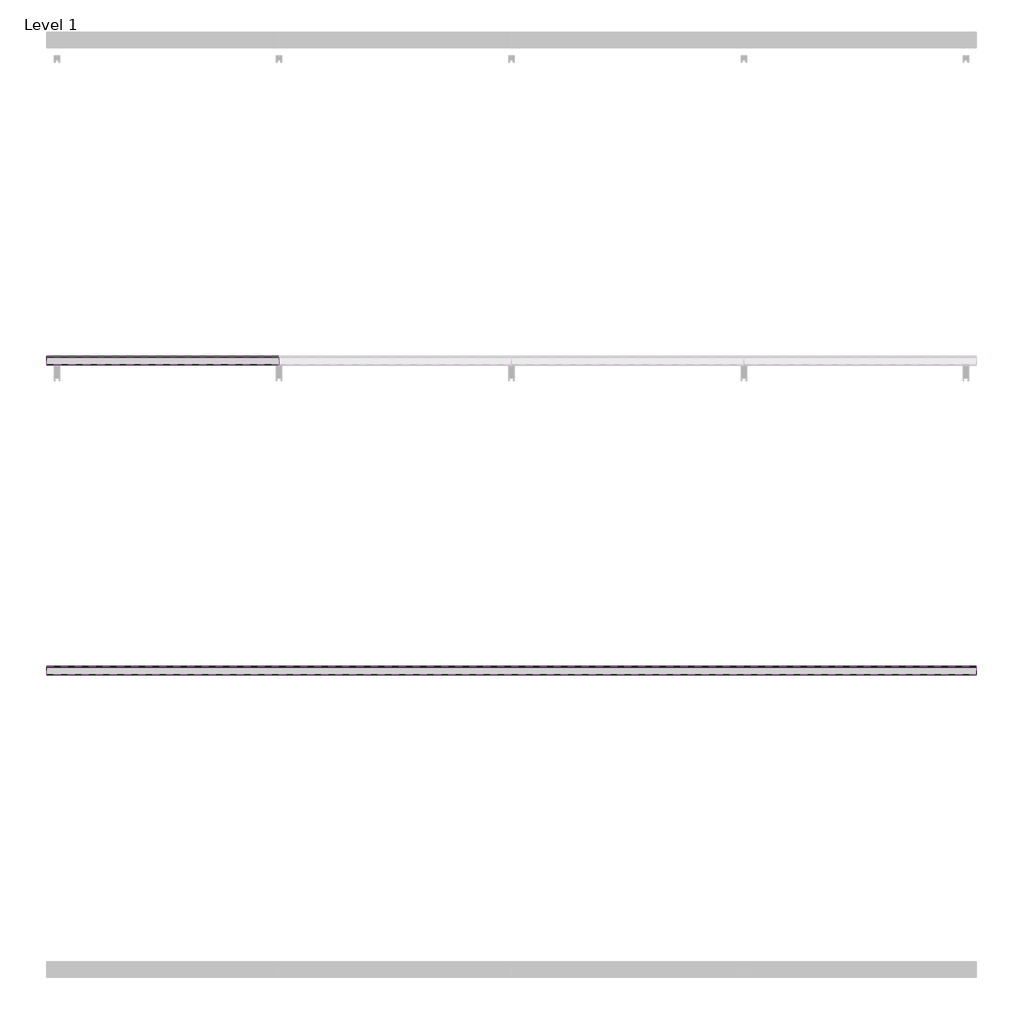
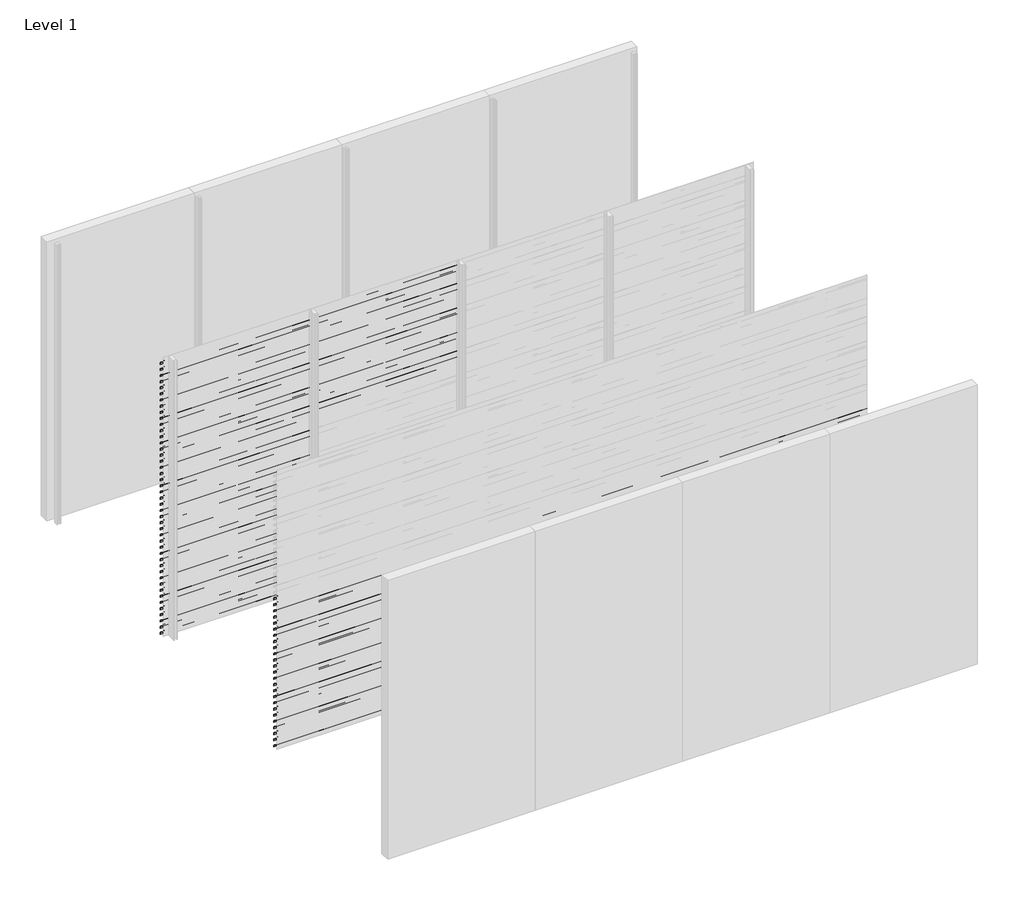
# One storey, part 16 of 25: 87 proxies.
"""IFC4 building model written with IfcOpenShell, lengths in millimetres."""

from ifc_helpers import new_model, si_unit, frame, origin, place, context, project, spatial, polyline, outline, extrude, element, save

model = new_model("IFC4")

# Units and contexts
model_context = context("Model", 3, world=origin())
ifc_project = project(units=[si_unit("LENGTHUNIT", "METRE", prefix="MILLI")], contexts=[model_context])

# Site, building, storey
site = spatial("IfcSite", under=ifc_project)
building = spatial("IfcBuilding", under=site)
storey = spatial("IfcBuildingStorey", under=building, Name="Level 1", Elevation=0.0)

# Proxies
placement = place(None, origin())
element("IfcBuildingElementProxy", 1, Name="Wall Sweeps", at=placement, inside=storey, context=model_context, shape_type="SweptSolid", body=[
    extrude(outline(polyline([(-17943.0, 2913.5), (-17943.0, 2893.5), (-17944.25, 2894.2216933), (-17944.25, 2912.7872415), (-17998.0, 2950.3158044), (-17998.0, 2970.0), (-17996.75, 2970.0), (-17996.75, 2951.0285629), (-17943.0, 2913.5)])), frame((0.0, 0.0, 0.0), z_axis=(1.0, 0.0, 0.0), x_axis=(0.0, 1.0, 0.0)), (0.0, 0.0, 1.0), 1500.0),
])
element("IfcBuildingElementProxy", 2, Name="Wall Sweeps", at=placement, inside=storey, context=model_context, shape_type="SweptSolid", body=[
    extrude(outline(polyline([(-17943.0, 2847.5), (-17943.0, 2827.5), (-17944.25, 2828.2216933), (-17944.25, 2846.7872415), (-17998.0, 2884.3158044), (-17998.0, 2904.0), (-17996.75, 2904.0), (-17996.75, 2885.0285629), (-17943.0, 2847.5)])), frame((0.0, 0.0, 0.0), z_axis=(1.0, 0.0, 0.0), x_axis=(0.0, 1.0, 0.0)), (0.0, 0.0, 1.0), 1500.0),
])
element("IfcBuildingElementProxy", 3, Name="Wall Sweeps", at=placement, inside=storey, context=model_context, shape_type="SweptSolid", body=[
    extrude(outline(polyline([(-17943.0, 2781.5), (-17943.0, 2761.5), (-17944.25, 2762.2216933), (-17944.25, 2780.7872415), (-17998.0, 2818.3158044), (-17998.0, 2838.0), (-17996.75, 2838.0), (-17996.75, 2819.0285629), (-17943.0, 2781.5)])), frame((0.0, 0.0, 0.0), z_axis=(1.0, 0.0, 0.0), x_axis=(0.0, 1.0, 0.0)), (0.0, 0.0, 1.0), 1500.0),
])
element("IfcBuildingElementProxy", 4, Name="Wall Sweeps", at=placement, inside=storey, context=model_context, shape_type="SweptSolid", body=[
    extrude(outline(polyline([(-17943.0, 2715.5), (-17943.0, 2695.5), (-17944.25, 2696.2216933), (-17944.25, 2714.7872415), (-17998.0, 2752.3158044), (-17998.0, 2772.0), (-17996.75, 2772.0), (-17996.75, 2753.0285629), (-17943.0, 2715.5)])), frame((0.0, 0.0, 0.0), z_axis=(1.0, 0.0, 0.0), x_axis=(0.0, 1.0, 0.0)), (0.0, 0.0, 1.0), 1500.0),
])
element("IfcBuildingElementProxy", 5, Name="Wall Sweeps", at=placement, inside=storey, context=model_context, shape_type="SweptSolid", body=[
    extrude(outline(polyline([(-17943.0, 2649.5), (-17943.0, 2629.5), (-17944.25, 2630.2216933), (-17944.25, 2648.7872415), (-17998.0, 2686.3158044), (-17998.0, 2706.0), (-17996.75, 2706.0), (-17996.75, 2687.0285629), (-17943.0, 2649.5)])), frame((0.0, 0.0, 0.0), z_axis=(1.0, 0.0, 0.0), x_axis=(0.0, 1.0, 0.0)), (0.0, 0.0, 1.0), 1500.0),
])
element("IfcBuildingElementProxy", 6, Name="Wall Sweeps", at=placement, inside=storey, context=model_context, shape_type="SweptSolid", body=[
    extrude(outline(polyline([(-17943.0, 2583.5), (-17943.0, 2563.5), (-17944.25, 2564.2216933), (-17944.25, 2582.7872415), (-17998.0, 2620.3158044), (-17998.0, 2640.0), (-17996.75, 2640.0), (-17996.75, 2621.0285629), (-17943.0, 2583.5)])), frame((0.0, 0.0, 0.0), z_axis=(1.0, 0.0, 0.0), x_axis=(0.0, 1.0, 0.0)), (0.0, 0.0, 1.0), 1500.0),
])
element("IfcBuildingElementProxy", 7, Name="Wall Sweeps", at=placement, inside=storey, context=model_context, shape_type="SweptSolid", body=[
    extrude(outline(polyline([(-17943.0, 2517.5), (-17943.0, 2497.5), (-17944.25, 2498.2216933), (-17944.25, 2516.7872415), (-17998.0, 2554.3158044), (-17998.0, 2574.0), (-17996.75, 2574.0), (-17996.75, 2555.0285629), (-17943.0, 2517.5)])), frame((0.0, 0.0, 0.0), z_axis=(1.0, 0.0, 0.0), x_axis=(0.0, 1.0, 0.0)), (0.0, 0.0, 1.0), 1500.0),
])
element("IfcBuildingElementProxy", 8, Name="Wall Sweeps", at=placement, inside=storey, context=model_context, shape_type="SweptSolid", body=[
    extrude(outline(polyline([(-17943.0, 2451.5), (-17943.0, 2431.5), (-17944.25, 2432.2216933), (-17944.25, 2450.7872415), (-17998.0, 2488.3158044), (-17998.0, 2508.0), (-17996.75, 2508.0), (-17996.75, 2489.0285629), (-17943.0, 2451.5)])), frame((0.0, 0.0, 0.0), z_axis=(1.0, 0.0, 0.0), x_axis=(0.0, 1.0, 0.0)), (0.0, 0.0, 1.0), 1500.0),
])
element("IfcBuildingElementProxy", 9, Name="Wall Sweeps", at=placement, inside=storey, context=model_context, shape_type="SweptSolid", body=[
    extrude(outline(polyline([(-17943.0, 2385.5), (-17943.0, 2365.5), (-17944.25, 2366.2216933), (-17944.25, 2384.7872415), (-17998.0, 2422.3158044), (-17998.0, 2442.0), (-17996.75, 2442.0), (-17996.75, 2423.0285629), (-17943.0, 2385.5)])), frame((0.0, 0.0, 0.0), z_axis=(1.0, 0.0, 0.0), x_axis=(0.0, 1.0, 0.0)), (0.0, 0.0, 1.0), 1500.0),
])
element("IfcBuildingElementProxy", 10, Name="Wall Sweeps", at=placement, inside=storey, context=model_context, shape_type="SweptSolid", body=[
    extrude(outline(polyline([(-17943.0, 2319.5), (-17943.0, 2299.5), (-17944.25, 2300.2216933), (-17944.25, 2318.7872415), (-17998.0, 2356.3158044), (-17998.0, 2376.0), (-17996.75, 2376.0), (-17996.75, 2357.0285629), (-17943.0, 2319.5)])), frame((0.0, 0.0, 0.0), z_axis=(1.0, 0.0, 0.0), x_axis=(0.0, 1.0, 0.0)), (0.0, 0.0, 1.0), 1500.0),
])
element("IfcBuildingElementProxy", 11, Name="Wall Sweeps", at=placement, inside=storey, context=model_context, shape_type="SweptSolid", body=[
    extrude(outline(polyline([(-17943.0, 2253.5), (-17943.0, 2233.5), (-17944.25, 2234.2216933), (-17944.25, 2252.7872415), (-17998.0, 2290.3158044), (-17998.0, 2310.0), (-17996.75, 2310.0), (-17996.75, 2291.0285629), (-17943.0, 2253.5)])), frame((0.0, 0.0, 0.0), z_axis=(1.0, 0.0, 0.0), x_axis=(0.0, 1.0, 0.0)), (0.0, 0.0, 1.0), 1500.0),
])
element("IfcBuildingElementProxy", 12, Name="Wall Sweeps", at=placement, inside=storey, context=model_context, shape_type="SweptSolid", body=[
    extrude(outline(polyline([(-17943.0, 2187.5), (-17943.0, 2167.5), (-17944.25, 2168.2216933), (-17944.25, 2186.7872415), (-17998.0, 2224.3158044), (-17998.0, 2244.0), (-17996.75, 2244.0), (-17996.75, 2225.0285629), (-17943.0, 2187.5)])), frame((0.0, 0.0, 0.0), z_axis=(1.0, 0.0, 0.0), x_axis=(0.0, 1.0, 0.0)), (0.0, 0.0, 1.0), 1500.0),
])
element("IfcBuildingElementProxy", 13, Name="Wall Sweeps", at=placement, inside=storey, context=model_context, shape_type="SweptSolid", body=[
    extrude(outline(polyline([(-17943.0, 2121.5), (-17943.0, 2101.5), (-17944.25, 2102.2216933), (-17944.25, 2120.7872415), (-17998.0, 2158.3158044), (-17998.0, 2178.0), (-17996.75, 2178.0), (-17996.75, 2159.0285629), (-17943.0, 2121.5)])), frame((0.0, 0.0, 0.0), z_axis=(1.0, 0.0, 0.0), x_axis=(0.0, 1.0, 0.0)), (0.0, 0.0, 1.0), 1500.0),
])
element("IfcBuildingElementProxy", 14, Name="Wall Sweeps", at=placement, inside=storey, context=model_context, shape_type="SweptSolid", body=[
    extrude(outline(polyline([(-17943.0, 2055.5), (-17943.0, 2035.5), (-17944.25, 2036.2216933), (-17944.25, 2054.7872415), (-17998.0, 2092.3158044), (-17998.0, 2112.0), (-17996.75, 2112.0), (-17996.75, 2093.0285629), (-17943.0, 2055.5)])), frame((0.0, 0.0, 0.0), z_axis=(1.0, 0.0, 0.0), x_axis=(0.0, 1.0, 0.0)), (0.0, 0.0, 1.0), 1500.0),
])
element("IfcBuildingElementProxy", 15, Name="Wall Sweeps", at=placement, inside=storey, context=model_context, shape_type="SweptSolid", body=[
    extrude(outline(polyline([(-17943.0, 1989.5), (-17943.0, 1969.5), (-17944.25, 1970.2216933), (-17944.25, 1988.7872415), (-17998.0, 2026.3158044), (-17998.0, 2046.0), (-17996.75, 2046.0), (-17996.75, 2027.0285629), (-17943.0, 1989.5)])), frame((0.0, 0.0, 0.0), z_axis=(1.0, 0.0, 0.0), x_axis=(0.0, 1.0, 0.0)), (0.0, 0.0, 1.0), 1500.0),
])
element("IfcBuildingElementProxy", 16, Name="Wall Sweeps", at=placement, inside=storey, context=model_context, shape_type="SweptSolid", body=[
    extrude(outline(polyline([(-17943.0, 1923.5), (-17943.0, 1903.5), (-17944.25, 1904.2216933), (-17944.25, 1922.7872415), (-17998.0, 1960.3158044), (-17998.0, 1980.0), (-17996.75, 1980.0), (-17996.75, 1961.0285629), (-17943.0, 1923.5)])), frame((0.0, 0.0, 0.0), z_axis=(1.0, 0.0, 0.0), x_axis=(0.0, 1.0, 0.0)), (0.0, 0.0, 1.0), 1500.0),
])
element("IfcBuildingElementProxy", 17, Name="Wall Sweeps", at=placement, inside=storey, context=model_context, shape_type="SweptSolid", body=[
    extrude(outline(polyline([(-17943.0, 1857.5), (-17943.0, 1837.5), (-17944.25, 1838.2216933), (-17944.25, 1856.7872415), (-17998.0, 1894.3158044), (-17998.0, 1914.0), (-17996.75, 1914.0), (-17996.75, 1895.0285629), (-17943.0, 1857.5)])), frame((0.0, 0.0, 0.0), z_axis=(1.0, 0.0, 0.0), x_axis=(0.0, 1.0, 0.0)), (0.0, 0.0, 1.0), 1500.0),
])
element("IfcBuildingElementProxy", 18, Name="Wall Sweeps", at=placement, inside=storey, context=model_context, shape_type="SweptSolid", body=[
    extrude(outline(polyline([(-17943.0, 1791.5), (-17943.0, 1771.5), (-17944.25, 1772.2216933), (-17944.25, 1790.7872415), (-17998.0, 1828.3158044), (-17998.0, 1848.0), (-17996.75, 1848.0), (-17996.75, 1829.0285629), (-17943.0, 1791.5)])), frame((0.0, 0.0, 0.0), z_axis=(1.0, 0.0, 0.0), x_axis=(0.0, 1.0, 0.0)), (0.0, 0.0, 1.0), 1500.0),
])
element("IfcBuildingElementProxy", 19, Name="Wall Sweeps", at=placement, inside=storey, context=model_context, shape_type="SweptSolid", body=[
    extrude(outline(polyline([(-17943.0, 1725.5), (-17943.0, 1705.5), (-17944.25, 1706.2216933), (-17944.25, 1724.7872415), (-17998.0, 1762.3158044), (-17998.0, 1782.0), (-17996.75, 1782.0), (-17996.75, 1763.0285629), (-17943.0, 1725.5)])), frame((0.0, 0.0, 0.0), z_axis=(1.0, 0.0, 0.0), x_axis=(0.0, 1.0, 0.0)), (0.0, 0.0, 1.0), 1500.0),
])
element("IfcBuildingElementProxy", 20, Name="Wall Sweeps", at=placement, inside=storey, context=model_context, shape_type="SweptSolid", body=[
    extrude(outline(polyline([(-17943.0, 1659.5), (-17943.0, 1639.5), (-17944.25, 1640.2216933), (-17944.25, 1658.7872415), (-17998.0, 1696.3158044), (-17998.0, 1716.0), (-17996.75, 1716.0), (-17996.75, 1697.0285629), (-17943.0, 1659.5)])), frame((0.0, 0.0, 0.0), z_axis=(1.0, 0.0, 0.0), x_axis=(0.0, 1.0, 0.0)), (0.0, 0.0, 1.0), 1500.0),
])
element("IfcBuildingElementProxy", 21, Name="Wall Sweeps", at=placement, inside=storey, context=model_context, shape_type="SweptSolid", body=[
    extrude(outline(polyline([(-17943.0, 1593.5), (-17943.0, 1573.5), (-17944.25, 1574.2216933), (-17944.25, 1592.7872415), (-17998.0, 1630.3158044), (-17998.0, 1650.0), (-17996.75, 1650.0), (-17996.75, 1631.0285629), (-17943.0, 1593.5)])), frame((0.0, 0.0, 0.0), z_axis=(1.0, 0.0, 0.0), x_axis=(0.0, 1.0, 0.0)), (0.0, 0.0, 1.0), 1500.0),
])
element("IfcBuildingElementProxy", 22, Name="Wall Sweeps", at=placement, inside=storey, context=model_context, shape_type="SweptSolid", body=[
    extrude(outline(polyline([(-17943.0, 1527.5), (-17943.0, 1507.5), (-17944.25, 1508.2216933), (-17944.25, 1526.7872415), (-17998.0, 1564.3158044), (-17998.0, 1584.0), (-17996.75, 1584.0), (-17996.75, 1565.0285629), (-17943.0, 1527.5)])), frame((0.0, 0.0, 0.0), z_axis=(1.0, 0.0, 0.0), x_axis=(0.0, 1.0, 0.0)), (0.0, 0.0, 1.0), 1500.0),
])
element("IfcBuildingElementProxy", 23, Name="Wall Sweeps", at=placement, inside=storey, context=model_context, shape_type="SweptSolid", body=[
    extrude(outline(polyline([(-17943.0, 1461.5), (-17943.0, 1441.5), (-17944.25, 1442.2216933), (-17944.25, 1460.7872415), (-17998.0, 1498.3158044), (-17998.0, 1518.0), (-17996.75, 1518.0), (-17996.75, 1499.0285629), (-17943.0, 1461.5)])), frame((0.0, 0.0, 0.0), z_axis=(1.0, 0.0, 0.0), x_axis=(0.0, 1.0, 0.0)), (0.0, 0.0, 1.0), 1500.0),
])
element("IfcBuildingElementProxy", 24, Name="Wall Sweeps", at=placement, inside=storey, context=model_context, shape_type="SweptSolid", body=[
    extrude(outline(polyline([(-17943.0, 1395.5), (-17943.0, 1375.5), (-17944.25, 1376.2216933), (-17944.25, 1394.7872415), (-17998.0, 1432.3158044), (-17998.0, 1452.0), (-17996.75, 1452.0), (-17996.75, 1433.0285629), (-17943.0, 1395.5)])), frame((0.0, 0.0, 0.0), z_axis=(1.0, 0.0, 0.0), x_axis=(0.0, 1.0, 0.0)), (0.0, 0.0, 1.0), 1500.0),
])
element("IfcBuildingElementProxy", 25, Name="Wall Sweeps", at=placement, inside=storey, context=model_context, shape_type="SweptSolid", body=[
    extrude(outline(polyline([(-17943.0, 1329.5), (-17943.0, 1309.5), (-17944.25, 1310.2216933), (-17944.25, 1328.7872415), (-17998.0, 1366.3158044), (-17998.0, 1386.0), (-17996.75, 1386.0), (-17996.75, 1367.0285629), (-17943.0, 1329.5)])), frame((0.0, 0.0, 0.0), z_axis=(1.0, 0.0, 0.0), x_axis=(0.0, 1.0, 0.0)), (0.0, 0.0, 1.0), 1500.0),
])
element("IfcBuildingElementProxy", 26, Name="Wall Sweeps", at=placement, inside=storey, context=model_context, shape_type="SweptSolid", body=[
    extrude(outline(polyline([(-17943.0, 1263.5), (-17943.0, 1243.5), (-17944.25, 1244.2216933), (-17944.25, 1262.7872415), (-17998.0, 1300.3158044), (-17998.0, 1320.0), (-17996.75, 1320.0), (-17996.75, 1301.0285629), (-17943.0, 1263.5)])), frame((0.0, 0.0, 0.0), z_axis=(1.0, 0.0, 0.0), x_axis=(0.0, 1.0, 0.0)), (0.0, 0.0, 1.0), 1500.0),
])
element("IfcBuildingElementProxy", 27, Name="Wall Sweeps", at=placement, inside=storey, context=model_context, shape_type="SweptSolid", body=[
    extrude(outline(polyline([(-17943.0, 1197.5), (-17943.0, 1177.5), (-17944.25, 1178.2216933), (-17944.25, 1196.7872415), (-17998.0, 1234.3158044), (-17998.0, 1254.0), (-17996.75, 1254.0), (-17996.75, 1235.0285629), (-17943.0, 1197.5)])), frame((0.0, 0.0, 0.0), z_axis=(1.0, 0.0, 0.0), x_axis=(0.0, 1.0, 0.0)), (0.0, 0.0, 1.0), 1500.0),
])
element("IfcBuildingElementProxy", 28, Name="Wall Sweeps", at=placement, inside=storey, context=model_context, shape_type="SweptSolid", body=[
    extrude(outline(polyline([(-17943.0, 1131.5), (-17943.0, 1111.5), (-17944.25, 1112.2216933), (-17944.25, 1130.7872415), (-17998.0, 1168.3158044), (-17998.0, 1188.0), (-17996.75, 1188.0), (-17996.75, 1169.0285629), (-17943.0, 1131.5)])), frame((0.0, 0.0, 0.0), z_axis=(1.0, 0.0, 0.0), x_axis=(0.0, 1.0, 0.0)), (0.0, 0.0, 1.0), 1500.0),
])
element("IfcBuildingElementProxy", 29, Name="Wall Sweeps", at=placement, inside=storey, context=model_context, shape_type="SweptSolid", body=[
    extrude(outline(polyline([(-17943.0, 1065.5), (-17943.0, 1045.5), (-17944.25, 1046.2216933), (-17944.25, 1064.7872415), (-17998.0, 1102.3158044), (-17998.0, 1122.0), (-17996.75, 1122.0), (-17996.75, 1103.0285629), (-17943.0, 1065.5)])), frame((0.0, 0.0, 0.0), z_axis=(1.0, 0.0, 0.0), x_axis=(0.0, 1.0, 0.0)), (0.0, 0.0, 1.0), 1500.0),
])
element("IfcBuildingElementProxy", 30, Name="Wall Sweeps", at=placement, inside=storey, context=model_context, shape_type="SweptSolid", body=[
    extrude(outline(polyline([(-17943.0, 999.5), (-17943.0, 979.5), (-17944.25, 980.2216933), (-17944.25, 998.7872415), (-17998.0, 1036.3158044), (-17998.0, 1056.0), (-17996.75, 1056.0), (-17996.75, 1037.0285629), (-17943.0, 999.5)])), frame((0.0, 0.0, 0.0), z_axis=(1.0, 0.0, 0.0), x_axis=(0.0, 1.0, 0.0)), (0.0, 0.0, 1.0), 1500.0),
])
element("IfcBuildingElementProxy", 31, Name="Wall Sweeps", at=placement, inside=storey, context=model_context, shape_type="SweptSolid", body=[
    extrude(outline(polyline([(-17943.0, 933.5), (-17943.0, 913.5), (-17944.25, 914.2216933), (-17944.25, 932.7872415), (-17998.0, 970.3158044), (-17998.0, 990.0), (-17996.75, 990.0), (-17996.75, 971.0285629), (-17943.0, 933.5)])), frame((0.0, 0.0, 0.0), z_axis=(1.0, 0.0, 0.0), x_axis=(0.0, 1.0, 0.0)), (0.0, 0.0, 1.0), 1500.0),
])
element("IfcBuildingElementProxy", 32, Name="Wall Sweeps", at=placement, inside=storey, context=model_context, shape_type="SweptSolid", body=[
    extrude(outline(polyline([(-17943.0, 867.5), (-17943.0, 847.5), (-17944.25, 848.2216933), (-17944.25, 866.7872415), (-17998.0, 904.3158044), (-17998.0, 924.0), (-17996.75, 924.0), (-17996.75, 905.0285629), (-17943.0, 867.5)])), frame((0.0, 0.0, 0.0), z_axis=(1.0, 0.0, 0.0), x_axis=(0.0, 1.0, 0.0)), (0.0, 0.0, 1.0), 1500.0),
])
element("IfcBuildingElementProxy", 33, Name="Wall Sweeps", at=placement, inside=storey, context=model_context, shape_type="SweptSolid", body=[
    extrude(outline(polyline([(-17943.0, 801.5), (-17943.0, 781.5), (-17944.25, 782.2216933), (-17944.25, 800.7872415), (-17998.0, 838.3158044), (-17998.0, 858.0), (-17996.75, 858.0), (-17996.75, 839.0285629), (-17943.0, 801.5)])), frame((0.0, 0.0, 0.0), z_axis=(1.0, 0.0, 0.0), x_axis=(0.0, 1.0, 0.0)), (0.0, 0.0, 1.0), 1500.0),
])
element("IfcBuildingElementProxy", 34, Name="Wall Sweeps", at=placement, inside=storey, context=model_context, shape_type="SweptSolid", body=[
    extrude(outline(polyline([(-17943.0, 735.5), (-17943.0, 715.5), (-17944.25, 716.2216933), (-17944.25, 734.7872415), (-17998.0, 772.3158044), (-17998.0, 792.0), (-17996.75, 792.0), (-17996.75, 773.0285629), (-17943.0, 735.5)])), frame((0.0, 0.0, 0.0), z_axis=(1.0, 0.0, 0.0), x_axis=(0.0, 1.0, 0.0)), (0.0, 0.0, 1.0), 1500.0),
])
element("IfcBuildingElementProxy", 35, Name="Wall Sweeps", at=placement, inside=storey, context=model_context, shape_type="SweptSolid", body=[
    extrude(outline(polyline([(-17943.0, 669.5), (-17943.0, 649.5), (-17944.25, 650.2216933), (-17944.25, 668.7872415), (-17998.0, 706.3158044), (-17998.0, 726.0), (-17996.75, 726.0), (-17996.75, 707.0285629), (-17943.0, 669.5)])), frame((0.0, 0.0, 0.0), z_axis=(1.0, 0.0, 0.0), x_axis=(0.0, 1.0, 0.0)), (0.0, 0.0, 1.0), 1500.0),
])
element("IfcBuildingElementProxy", 36, Name="Wall Sweeps", at=placement, inside=storey, context=model_context, shape_type="SweptSolid", body=[
    extrude(outline(polyline([(-17943.0, 603.5), (-17943.0, 583.5), (-17944.25, 584.2216933), (-17944.25, 602.7872415), (-17998.0, 640.3158044), (-17998.0, 660.0), (-17996.75, 660.0), (-17996.75, 641.0285629), (-17943.0, 603.5)])), frame((0.0, 0.0, 0.0), z_axis=(1.0, 0.0, 0.0), x_axis=(0.0, 1.0, 0.0)), (0.0, 0.0, 1.0), 1500.0),
])
element("IfcBuildingElementProxy", 37, Name="Wall Sweeps", at=placement, inside=storey, context=model_context, shape_type="SweptSolid", body=[
    extrude(outline(polyline([(-17943.0, 537.5), (-17943.0, 517.5), (-17944.25, 518.2216933), (-17944.25, 536.7872415), (-17998.0, 574.3158044), (-17998.0, 594.0), (-17996.75, 594.0), (-17996.75, 575.0285629), (-17943.0, 537.5)])), frame((0.0, 0.0, 0.0), z_axis=(1.0, 0.0, 0.0), x_axis=(0.0, 1.0, 0.0)), (0.0, 0.0, 1.0), 1500.0),
])
element("IfcBuildingElementProxy", 38, Name="Wall Sweeps", at=placement, inside=storey, context=model_context, shape_type="SweptSolid", body=[
    extrude(outline(polyline([(-17943.0, 471.5), (-17943.0, 451.5), (-17944.25, 452.2216933), (-17944.25, 470.7872415), (-17998.0, 508.3158044), (-17998.0, 528.0), (-17996.75, 528.0), (-17996.75, 509.0285629), (-17943.0, 471.5)])), frame((0.0, 0.0, 0.0), z_axis=(1.0, 0.0, 0.0), x_axis=(0.0, 1.0, 0.0)), (0.0, 0.0, 1.0), 1500.0),
])
element("IfcBuildingElementProxy", 39, Name="Wall Sweeps", at=placement, inside=storey, context=model_context, shape_type="SweptSolid", body=[
    extrude(outline(polyline([(-17943.0, 405.5), (-17943.0, 385.5), (-17944.25, 386.2216933), (-17944.25, 404.7872415), (-17998.0, 442.3158044), (-17998.0, 462.0), (-17996.75, 462.0), (-17996.75, 443.0285629), (-17943.0, 405.5)])), frame((0.0, 0.0, 0.0), z_axis=(1.0, 0.0, 0.0), x_axis=(0.0, 1.0, 0.0)), (0.0, 0.0, 1.0), 1500.0),
])
element("IfcBuildingElementProxy", 40, Name="Wall Sweeps", at=placement, inside=storey, context=model_context, shape_type="SweptSolid", body=[
    extrude(outline(polyline([(-17943.0, 339.5), (-17943.0, 319.5), (-17944.25, 320.2216933), (-17944.25, 338.7872415), (-17998.0, 376.3158044), (-17998.0, 396.0), (-17996.75, 396.0), (-17996.75, 377.0285629), (-17943.0, 339.5)])), frame((0.0, 0.0, 0.0), z_axis=(1.0, 0.0, 0.0), x_axis=(0.0, 1.0, 0.0)), (0.0, 0.0, 1.0), 1500.0),
])
element("IfcBuildingElementProxy", 41, Name="Wall Sweeps", at=placement, inside=storey, context=model_context, shape_type="SweptSolid", body=[
    extrude(outline(polyline([(-17943.0, 273.5), (-17943.0, 253.5), (-17944.25, 254.2216933), (-17944.25, 272.7872415), (-17998.0, 310.3158044), (-17998.0, 330.0), (-17996.75, 330.0), (-17996.75, 311.0285629), (-17943.0, 273.5)])), frame((0.0, 0.0, 0.0), z_axis=(1.0, 0.0, 0.0), x_axis=(0.0, 1.0, 0.0)), (0.0, 0.0, 1.0), 1500.0),
])
element("IfcBuildingElementProxy", 42, Name="Wall Sweeps", at=placement, inside=storey, context=model_context, shape_type="SweptSolid", body=[
    extrude(outline(polyline([(-17943.0, 207.5), (-17943.0, 187.5), (-17944.25, 188.2216933), (-17944.25, 206.7872415), (-17998.0, 244.3158044), (-17998.0, 264.0), (-17996.75, 264.0), (-17996.75, 245.0285629), (-17943.0, 207.5)])), frame((0.0, 0.0, 0.0), z_axis=(1.0, 0.0, 0.0), x_axis=(0.0, 1.0, 0.0)), (0.0, 0.0, 1.0), 1500.0),
])
element("IfcBuildingElementProxy", 43, Name="Wall Sweeps", at=placement, inside=storey, context=model_context, shape_type="SweptSolid", body=[
    extrude(outline(polyline([(-17943.0, 141.5), (-17943.0, 121.5), (-17944.25, 122.2216933), (-17944.25, 140.7872415), (-17998.0, 178.3158044), (-17998.0, 198.0), (-17996.75, 198.0), (-17996.75, 179.0285629), (-17943.0, 141.5)])), frame((0.0, 0.0, 0.0), z_axis=(1.0, 0.0, 0.0), x_axis=(0.0, 1.0, 0.0)), (0.0, 0.0, 1.0), 1500.0),
])
element("IfcBuildingElementProxy", 44, Name="Wall Sweeps", at=placement, inside=storey, context=model_context, shape_type="SweptSolid", body=[
    extrude(outline(polyline([(-17943.0, 75.5), (-17943.0, 55.5), (-17944.25, 56.2216933), (-17944.25, 74.7872415), (-17998.0, 112.3158044), (-17998.0, 132.0), (-17996.75, 132.0), (-17996.75, 113.0285629), (-17943.0, 75.5)])), frame((0.0, 0.0, 0.0), z_axis=(1.0, 0.0, 0.0), x_axis=(0.0, 1.0, 0.0)), (0.0, 0.0, 1.0), 1500.0),
])
element("IfcBuildingElementProxy", 45, Name="Wall Sweeps", at=placement, inside=storey, context=model_context, shape_type="SweptSolid", body=[
    extrude(outline(polyline([(-17943.0, 9.5), (-17943.0, -10.5), (-17944.25, -9.7783067), (-17944.25, 8.7872415), (-17998.0, 46.3158044), (-17998.0, 66.0), (-17996.75, 66.0), (-17996.75, 47.0285629), (-17943.0, 9.5)])), frame((0.0, 0.0, 0.0), z_axis=(1.0, 0.0, 0.0), x_axis=(0.0, 1.0, 0.0)), (0.0, 0.0, 1.0), 1500.0),
])
element("IfcBuildingElementProxy", 46, Name="Wall Sweeps", at=placement, inside=storey, context=model_context, shape_type="SweptSolid", body=[
    extrude(outline(polyline([(-17943.0, 2913.5), (-17943.0, 2893.5), (-17944.25, 2894.2216933), (-17944.25, 2912.7872415), (-17998.0, 2950.3158044), (-17998.0, 2970.0), (-17996.75, 2970.0), (-17996.75, 2951.0285629), (-17943.0, 2913.5)])), frame((1500.0, 0.0, 0.0), z_axis=(1.0, 0.0, 0.0), x_axis=(0.0, 1.0, 0.0)), (0.0, 0.0, 1.0), 1500.0),
])
element("IfcBuildingElementProxy", 47, Name="Wall Sweeps", at=placement, inside=storey, context=model_context, shape_type="SweptSolid", body=[
    extrude(outline(polyline([(-17943.0, 2847.5), (-17943.0, 2827.5), (-17944.25, 2828.2216933), (-17944.25, 2846.7872415), (-17998.0, 2884.3158044), (-17998.0, 2904.0), (-17996.75, 2904.0), (-17996.75, 2885.0285629), (-17943.0, 2847.5)])), frame((1500.0, 0.0, 0.0), z_axis=(1.0, 0.0, 0.0), x_axis=(0.0, 1.0, 0.0)), (0.0, 0.0, 1.0), 1500.0),
])
element("IfcBuildingElementProxy", 48, Name="Wall Sweeps", at=placement, inside=storey, context=model_context, shape_type="SweptSolid", body=[
    extrude(outline(polyline([(-17943.0, 2781.5), (-17943.0, 2761.5), (-17944.25, 2762.2216933), (-17944.25, 2780.7872415), (-17998.0, 2818.3158044), (-17998.0, 2838.0), (-17996.75, 2838.0), (-17996.75, 2819.0285629), (-17943.0, 2781.5)])), frame((1500.0, 0.0, 0.0), z_axis=(1.0, 0.0, 0.0), x_axis=(0.0, 1.0, 0.0)), (0.0, 0.0, 1.0), 1500.0),
])
element("IfcBuildingElementProxy", 49, Name="Wall Sweeps", at=placement, inside=storey, context=model_context, shape_type="SweptSolid", body=[
    extrude(outline(polyline([(-17943.0, 2715.5), (-17943.0, 2695.5), (-17944.25, 2696.2216933), (-17944.25, 2714.7872415), (-17998.0, 2752.3158044), (-17998.0, 2772.0), (-17996.75, 2772.0), (-17996.75, 2753.0285629), (-17943.0, 2715.5)])), frame((1500.0, 0.0, 0.0), z_axis=(1.0, 0.0, 0.0), x_axis=(0.0, 1.0, 0.0)), (0.0, 0.0, 1.0), 1500.0),
])
element("IfcBuildingElementProxy", 50, Name="Wall Sweeps", at=placement, inside=storey, context=model_context, shape_type="SweptSolid", body=[
    extrude(outline(polyline([(-17943.0, 2649.5), (-17943.0, 2629.5), (-17944.25, 2630.2216933), (-17944.25, 2648.7872415), (-17998.0, 2686.3158044), (-17998.0, 2706.0), (-17996.75, 2706.0), (-17996.75, 2687.0285629), (-17943.0, 2649.5)])), frame((1500.0, 0.0, 0.0), z_axis=(1.0, 0.0, 0.0), x_axis=(0.0, 1.0, 0.0)), (0.0, 0.0, 1.0), 1500.0),
])
element("IfcBuildingElementProxy", 51, Name="Wall Sweeps", at=placement, inside=storey, context=model_context, shape_type="SweptSolid", body=[
    extrude(outline(polyline([(-17943.0, 2583.5), (-17943.0, 2563.5), (-17944.25, 2564.2216933), (-17944.25, 2582.7872415), (-17998.0, 2620.3158044), (-17998.0, 2640.0), (-17996.75, 2640.0), (-17996.75, 2621.0285629), (-17943.0, 2583.5)])), frame((1500.0, 0.0, 0.0), z_axis=(1.0, 0.0, 0.0), x_axis=(0.0, 1.0, 0.0)), (0.0, 0.0, 1.0), 1500.0),
])
element("IfcBuildingElementProxy", 52, Name="Wall Sweeps", at=placement, inside=storey, context=model_context, shape_type="SweptSolid", body=[
    extrude(outline(polyline([(-17943.0, 2517.5), (-17943.0, 2497.5), (-17944.25, 2498.2216933), (-17944.25, 2516.7872415), (-17998.0, 2554.3158044), (-17998.0, 2574.0), (-17996.75, 2574.0), (-17996.75, 2555.0285629), (-17943.0, 2517.5)])), frame((1500.0, 0.0, 0.0), z_axis=(1.0, 0.0, 0.0), x_axis=(0.0, 1.0, 0.0)), (0.0, 0.0, 1.0), 1500.0),
])
element("IfcBuildingElementProxy", 53, Name="Wall Sweeps", at=placement, inside=storey, context=model_context, shape_type="SweptSolid", body=[
    extrude(outline(polyline([(-17943.0, 2451.5), (-17943.0, 2431.5), (-17944.25, 2432.2216933), (-17944.25, 2450.7872415), (-17998.0, 2488.3158044), (-17998.0, 2508.0), (-17996.75, 2508.0), (-17996.75, 2489.0285629), (-17943.0, 2451.5)])), frame((1500.0, 0.0, 0.0), z_axis=(1.0, 0.0, 0.0), x_axis=(0.0, 1.0, 0.0)), (0.0, 0.0, 1.0), 1500.0),
])
element("IfcBuildingElementProxy", 54, Name="Wall Sweeps", at=placement, inside=storey, context=model_context, shape_type="SweptSolid", body=[
    extrude(outline(polyline([(-17943.0, 2385.5), (-17943.0, 2365.5), (-17944.25, 2366.2216933), (-17944.25, 2384.7872415), (-17998.0, 2422.3158044), (-17998.0, 2442.0), (-17996.75, 2442.0), (-17996.75, 2423.0285629), (-17943.0, 2385.5)])), frame((1500.0, 0.0, 0.0), z_axis=(1.0, 0.0, 0.0), x_axis=(0.0, 1.0, 0.0)), (0.0, 0.0, 1.0), 1500.0),
])
element("IfcBuildingElementProxy", 55, Name="Wall Sweeps", at=placement, inside=storey, context=model_context, shape_type="SweptSolid", body=[
    extrude(outline(polyline([(-17943.0, 2319.5), (-17943.0, 2299.5), (-17944.25, 2300.2216933), (-17944.25, 2318.7872415), (-17998.0, 2356.3158044), (-17998.0, 2376.0), (-17996.75, 2376.0), (-17996.75, 2357.0285629), (-17943.0, 2319.5)])), frame((1500.0, 0.0, 0.0), z_axis=(1.0, 0.0, 0.0), x_axis=(0.0, 1.0, 0.0)), (0.0, 0.0, 1.0), 1500.0),
])
element("IfcBuildingElementProxy", 56, Name="Wall Sweeps", at=placement, inside=storey, context=model_context, shape_type="SweptSolid", body=[
    extrude(outline(polyline([(-17943.0, 2253.5), (-17943.0, 2233.5), (-17944.25, 2234.2216933), (-17944.25, 2252.7872415), (-17998.0, 2290.3158044), (-17998.0, 2310.0), (-17996.75, 2310.0), (-17996.75, 2291.0285629), (-17943.0, 2253.5)])), frame((1500.0, 0.0, 0.0), z_axis=(1.0, 0.0, 0.0), x_axis=(0.0, 1.0, 0.0)), (0.0, 0.0, 1.0), 1500.0),
])
element("IfcBuildingElementProxy", 57, Name="Wall Sweeps", at=placement, inside=storey, context=model_context, shape_type="SweptSolid", body=[
    extrude(outline(polyline([(-17943.0, 2187.5), (-17943.0, 2167.5), (-17944.25, 2168.2216933), (-17944.25, 2186.7872415), (-17998.0, 2224.3158044), (-17998.0, 2244.0), (-17996.75, 2244.0), (-17996.75, 2225.0285629), (-17943.0, 2187.5)])), frame((1500.0, 0.0, 0.0), z_axis=(1.0, 0.0, 0.0), x_axis=(0.0, 1.0, 0.0)), (0.0, 0.0, 1.0), 1500.0),
])
element("IfcBuildingElementProxy", 58, Name="Wall Sweeps", at=placement, inside=storey, context=model_context, shape_type="SweptSolid", body=[
    extrude(outline(polyline([(-17943.0, 2121.5), (-17943.0, 2101.5), (-17944.25, 2102.2216933), (-17944.25, 2120.7872415), (-17998.0, 2158.3158044), (-17998.0, 2178.0), (-17996.75, 2178.0), (-17996.75, 2159.0285629), (-17943.0, 2121.5)])), frame((1500.0, 0.0, 0.0), z_axis=(1.0, 0.0, 0.0), x_axis=(0.0, 1.0, 0.0)), (0.0, 0.0, 1.0), 1500.0),
])
element("IfcBuildingElementProxy", 59, Name="Wall Sweeps", at=placement, inside=storey, context=model_context, shape_type="SweptSolid", body=[
    extrude(outline(polyline([(-17943.0, 2055.5), (-17943.0, 2035.5), (-17944.25, 2036.2216933), (-17944.25, 2054.7872415), (-17998.0, 2092.3158044), (-17998.0, 2112.0), (-17996.75, 2112.0), (-17996.75, 2093.0285629), (-17943.0, 2055.5)])), frame((1500.0, 0.0, 0.0), z_axis=(1.0, 0.0, 0.0), x_axis=(0.0, 1.0, 0.0)), (0.0, 0.0, 1.0), 1500.0),
])
element("IfcBuildingElementProxy", 60, Name="Wall Sweeps", at=placement, inside=storey, context=model_context, shape_type="SweptSolid", body=[
    extrude(outline(polyline([(-17943.0, 1989.5), (-17943.0, 1969.5), (-17944.25, 1970.2216933), (-17944.25, 1988.7872415), (-17998.0, 2026.3158044), (-17998.0, 2046.0), (-17996.75, 2046.0), (-17996.75, 2027.0285629), (-17943.0, 1989.5)])), frame((1500.0, 0.0, 0.0), z_axis=(1.0, 0.0, 0.0), x_axis=(0.0, 1.0, 0.0)), (0.0, 0.0, 1.0), 1500.0),
])
element("IfcBuildingElementProxy", 61, Name="Wall Sweeps", at=placement, inside=storey, context=model_context, shape_type="SweptSolid", body=[
    extrude(outline(polyline([(-17943.0, 1923.5), (-17943.0, 1903.5), (-17944.25, 1904.2216933), (-17944.25, 1922.7872415), (-17998.0, 1960.3158044), (-17998.0, 1980.0), (-17996.75, 1980.0), (-17996.75, 1961.0285629), (-17943.0, 1923.5)])), frame((1500.0, 0.0, 0.0), z_axis=(1.0, 0.0, 0.0), x_axis=(0.0, 1.0, 0.0)), (0.0, 0.0, 1.0), 1500.0),
])
element("IfcBuildingElementProxy", 62, Name="Wall Sweeps", at=placement, inside=storey, context=model_context, shape_type="SweptSolid", body=[
    extrude(outline(polyline([(-17943.0, 1857.5), (-17943.0, 1837.5), (-17944.25, 1838.2216933), (-17944.25, 1856.7872415), (-17998.0, 1894.3158044), (-17998.0, 1914.0), (-17996.75, 1914.0), (-17996.75, 1895.0285629), (-17943.0, 1857.5)])), frame((1500.0, 0.0, 0.0), z_axis=(1.0, 0.0, 0.0), x_axis=(0.0, 1.0, 0.0)), (0.0, 0.0, 1.0), 1500.0),
])
element("IfcBuildingElementProxy", 63, Name="Wall Sweeps", at=placement, inside=storey, context=model_context, shape_type="SweptSolid", body=[
    extrude(outline(polyline([(-19943.0, 1593.5), (-19943.0, 1573.5), (-19944.25, 1574.2216933), (-19944.25, 1592.7872415), (-19998.0, 1630.3158044), (-19998.0, 1650.0), (-19996.75, 1650.0), (-19996.75, 1631.0285629), (-19943.0, 1593.5)])), frame((0.0, 0.0, 0.0), z_axis=(1.0, 0.0, 0.0), x_axis=(0.0, 1.0, 0.0)), (0.0, 0.0, 1.0), 6000.0),
])
element("IfcBuildingElementProxy", 64, Name="Wall Sweeps", at=placement, inside=storey, context=model_context, shape_type="SweptSolid", body=[
    extrude(outline(polyline([(-19943.0, 1527.5), (-19943.0, 1507.5), (-19944.25, 1508.2216933), (-19944.25, 1526.7872415), (-19998.0, 1564.3158044), (-19998.0, 1584.0), (-19996.75, 1584.0), (-19996.75, 1565.0285629), (-19943.0, 1527.5)])), frame((0.0, 0.0, 0.0), z_axis=(1.0, 0.0, 0.0), x_axis=(0.0, 1.0, 0.0)), (0.0, 0.0, 1.0), 6000.0),
])
element("IfcBuildingElementProxy", 65, Name="Wall Sweeps", at=placement, inside=storey, context=model_context, shape_type="SweptSolid", body=[
    extrude(outline(polyline([(-19943.0, 1461.5), (-19943.0, 1441.5), (-19944.25, 1442.2216933), (-19944.25, 1460.7872415), (-19998.0, 1498.3158044), (-19998.0, 1518.0), (-19996.75, 1518.0), (-19996.75, 1499.0285629), (-19943.0, 1461.5)])), frame((0.0, 0.0, 0.0), z_axis=(1.0, 0.0, 0.0), x_axis=(0.0, 1.0, 0.0)), (0.0, 0.0, 1.0), 6000.0),
])
element("IfcBuildingElementProxy", 66, Name="Wall Sweeps", at=placement, inside=storey, context=model_context, shape_type="SweptSolid", body=[
    extrude(outline(polyline([(-19943.0, 1395.5), (-19943.0, 1375.5), (-19944.25, 1376.2216933), (-19944.25, 1394.7872415), (-19998.0, 1432.3158044), (-19998.0, 1452.0), (-19996.75, 1452.0), (-19996.75, 1433.0285629), (-19943.0, 1395.5)])), frame((0.0, 0.0, 0.0), z_axis=(1.0, 0.0, 0.0), x_axis=(0.0, 1.0, 0.0)), (0.0, 0.0, 1.0), 6000.0),
])
element("IfcBuildingElementProxy", 67, Name="Wall Sweeps", at=placement, inside=storey, context=model_context, shape_type="SweptSolid", body=[
    extrude(outline(polyline([(-19943.0, 1329.5), (-19943.0, 1309.5), (-19944.25, 1310.2216933), (-19944.25, 1328.7872415), (-19998.0, 1366.3158044), (-19998.0, 1386.0), (-19996.75, 1386.0), (-19996.75, 1367.0285629), (-19943.0, 1329.5)])), frame((0.0, 0.0, 0.0), z_axis=(1.0, 0.0, 0.0), x_axis=(0.0, 1.0, 0.0)), (0.0, 0.0, 1.0), 6000.0),
])
element("IfcBuildingElementProxy", 68, Name="Wall Sweeps", at=placement, inside=storey, context=model_context, shape_type="SweptSolid", body=[
    extrude(outline(polyline([(-19943.0, 1263.5), (-19943.0, 1243.5), (-19944.25, 1244.2216933), (-19944.25, 1262.7872415), (-19998.0, 1300.3158044), (-19998.0, 1320.0), (-19996.75, 1320.0), (-19996.75, 1301.0285629), (-19943.0, 1263.5)])), frame((0.0, 0.0, 0.0), z_axis=(1.0, 0.0, 0.0), x_axis=(0.0, 1.0, 0.0)), (0.0, 0.0, 1.0), 6000.0),
])
element("IfcBuildingElementProxy", 69, Name="Wall Sweeps", at=placement, inside=storey, context=model_context, shape_type="SweptSolid", body=[
    extrude(outline(polyline([(-19943.0, 1197.5), (-19943.0, 1177.5), (-19944.25, 1178.2216933), (-19944.25, 1196.7872415), (-19998.0, 1234.3158044), (-19998.0, 1254.0), (-19996.75, 1254.0), (-19996.75, 1235.0285629), (-19943.0, 1197.5)])), frame((0.0, 0.0, 0.0), z_axis=(1.0, 0.0, 0.0), x_axis=(0.0, 1.0, 0.0)), (0.0, 0.0, 1.0), 6000.0),
])
element("IfcBuildingElementProxy", 70, Name="Wall Sweeps", at=placement, inside=storey, context=model_context, shape_type="SweptSolid", body=[
    extrude(outline(polyline([(-19943.0, 1131.5), (-19943.0, 1111.5), (-19944.25, 1112.2216933), (-19944.25, 1130.7872415), (-19998.0, 1168.3158044), (-19998.0, 1188.0), (-19996.75, 1188.0), (-19996.75, 1169.0285629), (-19943.0, 1131.5)])), frame((0.0, 0.0, 0.0), z_axis=(1.0, 0.0, 0.0), x_axis=(0.0, 1.0, 0.0)), (0.0, 0.0, 1.0), 6000.0),
])
element("IfcBuildingElementProxy", 71, Name="Wall Sweeps", at=placement, inside=storey, context=model_context, shape_type="SweptSolid", body=[
    extrude(outline(polyline([(-19943.0, 1065.5), (-19943.0, 1045.5), (-19944.25, 1046.2216933), (-19944.25, 1064.7872415), (-19998.0, 1102.3158044), (-19998.0, 1122.0), (-19996.75, 1122.0), (-19996.75, 1103.0285629), (-19943.0, 1065.5)])), frame((0.0, 0.0, 0.0), z_axis=(1.0, 0.0, 0.0), x_axis=(0.0, 1.0, 0.0)), (0.0, 0.0, 1.0), 6000.0),
])
element("IfcBuildingElementProxy", 72, Name="Wall Sweeps", at=placement, inside=storey, context=model_context, shape_type="SweptSolid", body=[
    extrude(outline(polyline([(-19943.0, 999.5), (-19943.0, 979.5), (-19944.25, 980.2216933), (-19944.25, 998.7872415), (-19998.0, 1036.3158044), (-19998.0, 1056.0), (-19996.75, 1056.0), (-19996.75, 1037.0285629), (-19943.0, 999.5)])), frame((0.0, 0.0, 0.0), z_axis=(1.0, 0.0, 0.0), x_axis=(0.0, 1.0, 0.0)), (0.0, 0.0, 1.0), 6000.0),
])
element("IfcBuildingElementProxy", 73, Name="Wall Sweeps", at=placement, inside=storey, context=model_context, shape_type="SweptSolid", body=[
    extrude(outline(polyline([(-19943.0, 933.5), (-19943.0, 913.5), (-19944.25, 914.2216933), (-19944.25, 932.7872415), (-19998.0, 970.3158044), (-19998.0, 990.0), (-19996.75, 990.0), (-19996.75, 971.0285629), (-19943.0, 933.5)])), frame((0.0, 0.0, 0.0), z_axis=(1.0, 0.0, 0.0), x_axis=(0.0, 1.0, 0.0)), (0.0, 0.0, 1.0), 6000.0),
])
element("IfcBuildingElementProxy", 74, Name="Wall Sweeps", at=placement, inside=storey, context=model_context, shape_type="SweptSolid", body=[
    extrude(outline(polyline([(-19943.0, 867.5), (-19943.0, 847.5), (-19944.25, 848.2216933), (-19944.25, 866.7872415), (-19998.0, 904.3158044), (-19998.0, 924.0), (-19996.75, 924.0), (-19996.75, 905.0285629), (-19943.0, 867.5)])), frame((0.0, 0.0, 0.0), z_axis=(1.0, 0.0, 0.0), x_axis=(0.0, 1.0, 0.0)), (0.0, 0.0, 1.0), 6000.0),
])
element("IfcBuildingElementProxy", 75, Name="Wall Sweeps", at=placement, inside=storey, context=model_context, shape_type="SweptSolid", body=[
    extrude(outline(polyline([(-19943.0, 801.5), (-19943.0, 781.5), (-19944.25, 782.2216933), (-19944.25, 800.7872415), (-19998.0, 838.3158044), (-19998.0, 858.0), (-19996.75, 858.0), (-19996.75, 839.0285629), (-19943.0, 801.5)])), frame((0.0, 0.0, 0.0), z_axis=(1.0, 0.0, 0.0), x_axis=(0.0, 1.0, 0.0)), (0.0, 0.0, 1.0), 6000.0),
])
element("IfcBuildingElementProxy", 76, Name="Wall Sweeps", at=placement, inside=storey, context=model_context, shape_type="SweptSolid", body=[
    extrude(outline(polyline([(-19943.0, 735.5), (-19943.0, 715.5), (-19944.25, 716.2216933), (-19944.25, 734.7872415), (-19998.0, 772.3158044), (-19998.0, 792.0), (-19996.75, 792.0), (-19996.75, 773.0285629), (-19943.0, 735.5)])), frame((0.0, 0.0, 0.0), z_axis=(1.0, 0.0, 0.0), x_axis=(0.0, 1.0, 0.0)), (0.0, 0.0, 1.0), 6000.0),
])
element("IfcBuildingElementProxy", 77, Name="Wall Sweeps", at=placement, inside=storey, context=model_context, shape_type="SweptSolid", body=[
    extrude(outline(polyline([(-19943.0, 669.5), (-19943.0, 649.5), (-19944.25, 650.2216933), (-19944.25, 668.7872415), (-19998.0, 706.3158044), (-19998.0, 726.0), (-19996.75, 726.0), (-19996.75, 707.0285629), (-19943.0, 669.5)])), frame((0.0, 0.0, 0.0), z_axis=(1.0, 0.0, 0.0), x_axis=(0.0, 1.0, 0.0)), (0.0, 0.0, 1.0), 6000.0),
])
element("IfcBuildingElementProxy", 78, Name="Wall Sweeps", at=placement, inside=storey, context=model_context, shape_type="SweptSolid", body=[
    extrude(outline(polyline([(-19943.0, 603.5), (-19943.0, 583.5), (-19944.25, 584.2216933), (-19944.25, 602.7872415), (-19998.0, 640.3158044), (-19998.0, 660.0), (-19996.75, 660.0), (-19996.75, 641.0285629), (-19943.0, 603.5)])), frame((0.0, 0.0, 0.0), z_axis=(1.0, 0.0, 0.0), x_axis=(0.0, 1.0, 0.0)), (0.0, 0.0, 1.0), 6000.0),
])
element("IfcBuildingElementProxy", 79, Name="Wall Sweeps", at=placement, inside=storey, context=model_context, shape_type="SweptSolid", body=[
    extrude(outline(polyline([(-19943.0, 537.5), (-19943.0, 517.5), (-19944.25, 518.2216933), (-19944.25, 536.7872415), (-19998.0, 574.3158044), (-19998.0, 594.0), (-19996.75, 594.0), (-19996.75, 575.0285629), (-19943.0, 537.5)])), frame((0.0, 0.0, 0.0), z_axis=(1.0, 0.0, 0.0), x_axis=(0.0, 1.0, 0.0)), (0.0, 0.0, 1.0), 6000.0),
])
element("IfcBuildingElementProxy", 80, Name="Wall Sweeps", at=placement, inside=storey, context=model_context, shape_type="SweptSolid", body=[
    extrude(outline(polyline([(-19943.0, 471.5), (-19943.0, 451.5), (-19944.25, 452.2216933), (-19944.25, 470.7872415), (-19998.0, 508.3158044), (-19998.0, 528.0), (-19996.75, 528.0), (-19996.75, 509.0285629), (-19943.0, 471.5)])), frame((0.0, 0.0, 0.0), z_axis=(1.0, 0.0, 0.0), x_axis=(0.0, 1.0, 0.0)), (0.0, 0.0, 1.0), 6000.0),
])
element("IfcBuildingElementProxy", 81, Name="Wall Sweeps", at=placement, inside=storey, context=model_context, shape_type="SweptSolid", body=[
    extrude(outline(polyline([(-19943.0, 405.5), (-19943.0, 385.5), (-19944.25, 386.2216933), (-19944.25, 404.7872415), (-19998.0, 442.3158044), (-19998.0, 462.0), (-19996.75, 462.0), (-19996.75, 443.0285629), (-19943.0, 405.5)])), frame((0.0, 0.0, 0.0), z_axis=(1.0, 0.0, 0.0), x_axis=(0.0, 1.0, 0.0)), (0.0, 0.0, 1.0), 6000.0),
])
element("IfcBuildingElementProxy", 82, Name="Wall Sweeps", at=placement, inside=storey, context=model_context, shape_type="SweptSolid", body=[
    extrude(outline(polyline([(-19943.0, 339.5), (-19943.0, 319.5), (-19944.25, 320.2216933), (-19944.25, 338.7872415), (-19998.0, 376.3158044), (-19998.0, 396.0), (-19996.75, 396.0), (-19996.75, 377.0285629), (-19943.0, 339.5)])), frame((0.0, 0.0, 0.0), z_axis=(1.0, 0.0, 0.0), x_axis=(0.0, 1.0, 0.0)), (0.0, 0.0, 1.0), 6000.0),
])
element("IfcBuildingElementProxy", 83, Name="Wall Sweeps", at=placement, inside=storey, context=model_context, shape_type="SweptSolid", body=[
    extrude(outline(polyline([(-19943.0, 273.5), (-19943.0, 253.5), (-19944.25, 254.2216933), (-19944.25, 272.7872415), (-19998.0, 310.3158044), (-19998.0, 330.0), (-19996.75, 330.0), (-19996.75, 311.0285629), (-19943.0, 273.5)])), frame((0.0, 0.0, 0.0), z_axis=(1.0, 0.0, 0.0), x_axis=(0.0, 1.0, 0.0)), (0.0, 0.0, 1.0), 6000.0),
])
element("IfcBuildingElementProxy", 84, Name="Wall Sweeps", at=placement, inside=storey, context=model_context, shape_type="SweptSolid", body=[
    extrude(outline(polyline([(-19943.0, 207.5), (-19943.0, 187.5), (-19944.25, 188.2216933), (-19944.25, 206.7872415), (-19998.0, 244.3158044), (-19998.0, 264.0), (-19996.75, 264.0), (-19996.75, 245.0285629), (-19943.0, 207.5)])), frame((0.0, 0.0, 0.0), z_axis=(1.0, 0.0, 0.0), x_axis=(0.0, 1.0, 0.0)), (0.0, 0.0, 1.0), 6000.0),
])
element("IfcBuildingElementProxy", 85, Name="Wall Sweeps", at=placement, inside=storey, context=model_context, shape_type="SweptSolid", body=[
    extrude(outline(polyline([(-19943.0, 141.5), (-19943.0, 121.5), (-19944.25, 122.2216933), (-19944.25, 140.7872415), (-19998.0, 178.3158044), (-19998.0, 198.0), (-19996.75, 198.0), (-19996.75, 179.0285629), (-19943.0, 141.5)])), frame((0.0, 0.0, 0.0), z_axis=(1.0, 0.0, 0.0), x_axis=(0.0, 1.0, 0.0)), (0.0, 0.0, 1.0), 6000.0),
])
element("IfcBuildingElementProxy", 86, Name="Wall Sweeps", at=placement, inside=storey, context=model_context, shape_type="SweptSolid", body=[
    extrude(outline(polyline([(-19943.0, 75.5), (-19943.0, 55.5), (-19944.25, 56.2216933), (-19944.25, 74.7872415), (-19998.0, 112.3158044), (-19998.0, 132.0), (-19996.75, 132.0), (-19996.75, 113.0285629), (-19943.0, 75.5)])), frame((0.0, 0.0, 0.0), z_axis=(1.0, 0.0, 0.0), x_axis=(0.0, 1.0, 0.0)), (0.0, 0.0, 1.0), 6000.0),
])
element("IfcBuildingElementProxy", 87, Name="Wall Sweeps", at=placement, inside=storey, context=model_context, shape_type="SweptSolid", body=[
    extrude(outline(polyline([(-19943.0, 9.5), (-19943.0, -10.5), (-19944.25, -9.7783067), (-19944.25, 8.7872415), (-19998.0, 46.3158044), (-19998.0, 66.0), (-19996.75, 66.0), (-19996.75, 47.0285629), (-19943.0, 9.5)])), frame((0.0, 0.0, 0.0), z_axis=(1.0, 0.0, 0.0), x_axis=(0.0, 1.0, 0.0)), (0.0, 0.0, 1.0), 6000.0),
])

save(model, "model.ifc")
